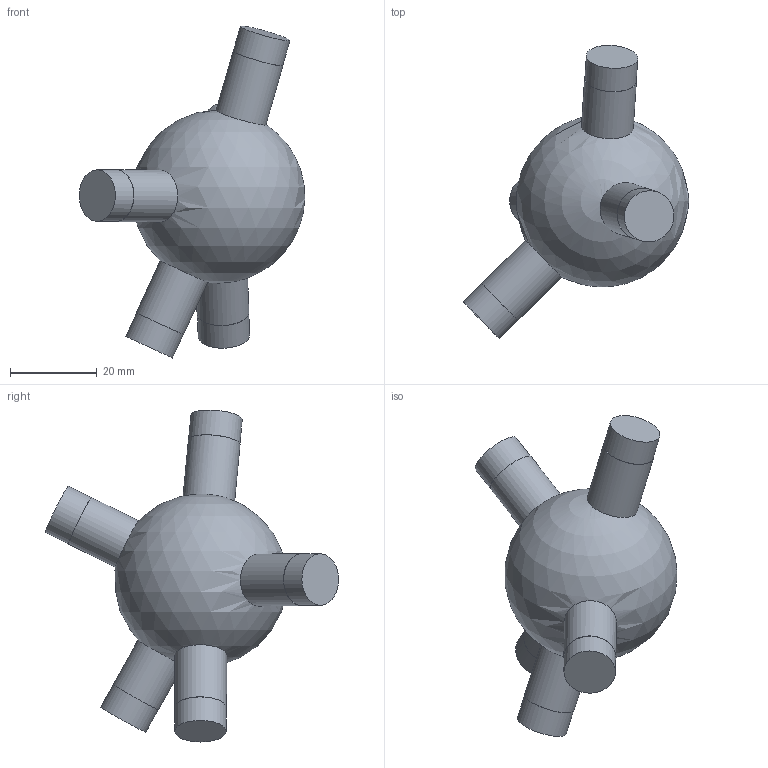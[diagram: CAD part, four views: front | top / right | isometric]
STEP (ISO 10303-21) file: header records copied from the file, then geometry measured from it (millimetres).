
FILE_DESCRIPTION(('Open CASCADE Model'),'2;1');
FILE_NAME('Open CASCADE Shape Model','2026-10-21T12:47:57',('Author'),( 'Open CASCADE'),'Open CASCADE STEP processor 7.9','Open CASCADE 7.9' ,'Unknown');
FILE_SCHEMA(('AUTOMOTIVE_DESIGN { 1 0 10303 214 1 1 1 1 }'));
Length unit declared in the file: millimetre
Products named in the file (1): Open CASCADE STEP translator 7.9 158
Bounding box: 52.17 x 67.76 x 76.75 mm (x, y, z)
Volume: 44013.9 mm3; surface area: 8611.4 mm2
Topology: 1 solids, 1 shells, 21 faces, 33 edges, 22 vertices
Faces by surface type: cylinder 10, plane 10, sphere 1
Full cylindrical faces by diameter (mm): 11.9 x5, 12 x5
Entity records: 1398 total; most frequent: CARTESIAN_POINT 640, DIRECTION 156, ORIENTED_EDGE 64, PCURVE 64, DEFINITIONAL_REPRESENTATION 64, LINE 53, VECTOR 53, AXIS2_PLACEMENT_3D 44
